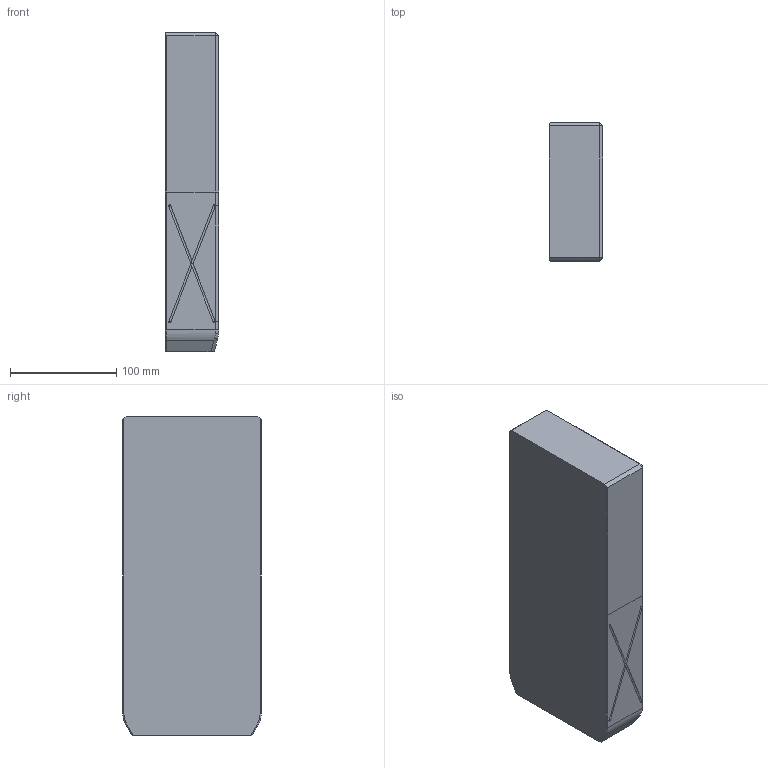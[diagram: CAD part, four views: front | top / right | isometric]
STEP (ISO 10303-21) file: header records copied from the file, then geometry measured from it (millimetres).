
FILE_DESCRIPTION((''),'2;1');
FILE_NAME('','2010-08-30T17:54:34+09:00',('misumi'),(''),'M/STEP i/f 1R2-14','CADmeister v5.1','');
FILE_SCHEMA(('AUTOMOTIVE_DESIGN'));
Length unit declared in the file: millimetre
Products named in the file (1): GW130-150-300
Bounding box: 50 x 130 x 300 mm (x, y, z)
Volume: 1931011.3 mm3; surface area: 119795 mm2
Topology: 1 solids, 1 shells, 74 faces, 199 edges, 117 vertices
Faces by surface type: plane 37, cylinder 17, revolution 12, bspline 6, cone 2
Entity records: 3481 total; most frequent: CARTESIAN_POINT 805, ORIENTED_EDGE 374, DIRECTION 357, COLOUR_RGB 202, CURVE_STYLE 195, PRESENTATION_STYLE_ASSIGNMENT 194, OVER_RIDING_STYLED_ITEM 193, EDGE_CURVE 187
